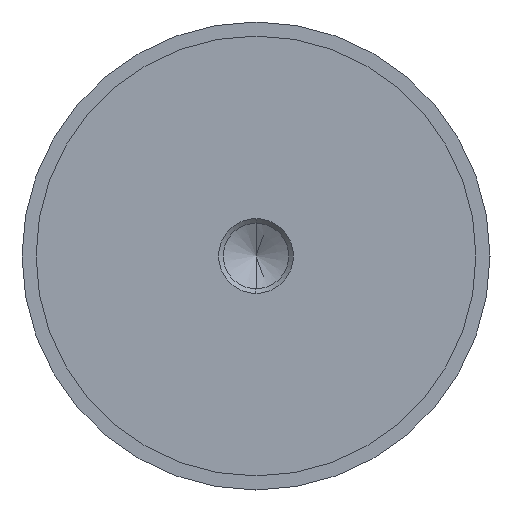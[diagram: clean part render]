
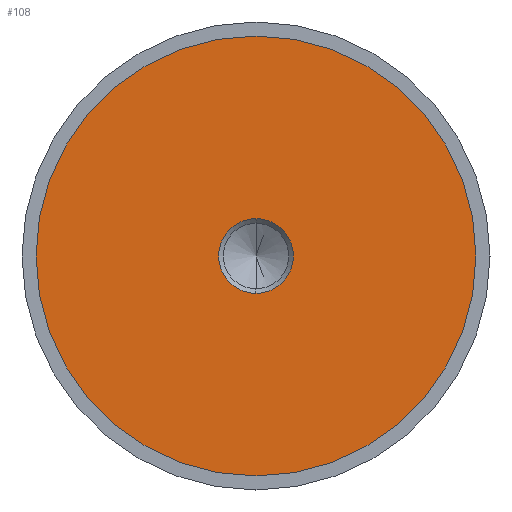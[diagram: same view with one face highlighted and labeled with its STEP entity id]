
A CAD part, left-side view. The second image highlights one B-rep face of the part: STEP entity #108.
In plain terms, the highlighted planar face has unit normal (-1, 0, 0).
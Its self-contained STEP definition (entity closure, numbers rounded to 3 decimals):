
#65 = CARTESIAN_POINT ( 'NONE',  ( -29.99, 0., 0. ) ) ;
#80 = CIRCLE ( 'NONE', #259, 7.99 ) ;
#108 = ADVANCED_FACE ( 'NONE', ( #772, #278 ), #469, .F. ) ;
#122 = ORIENTED_EDGE ( 'NONE', *, *, #333, .T. ) ;
#131 = ORIENTED_EDGE ( 'NONE', *, *, #521, .T. ) ;
#147 = CIRCLE ( 'NONE', #557, 7.99 ) ;
#157 = ORIENTED_EDGE ( 'NONE', *, *, #214, .T. ) ;
#166 = CARTESIAN_POINT ( 'NONE',  ( -29.99, 47., 0. ) ) ;
#191 = AXIS2_PLACEMENT_3D ( 'NONE', #361, #543, #783 ) ;
#192 = EDGE_CURVE ( 'NONE', #310, #304, #80, .T. ) ;
#205 = CARTESIAN_POINT ( 'NONE',  ( -29.99, 0., -7.99 ) ) ;
#214 = EDGE_CURVE ( 'NONE', #287, #590, #708, .T. ) ;
#229 = AXIS2_PLACEMENT_3D ( 'NONE', #277, #635, #638 ) ;
#249 = CARTESIAN_POINT ( 'NONE',  ( -29.99, 0., 0. ) ) ;
#259 = AXIS2_PLACEMENT_3D ( 'NONE', #249, #429, #725 ) ;
#277 = CARTESIAN_POINT ( 'NONE',  ( -29.99, 0., 0. ) ) ;
#278 = FACE_OUTER_BOUND ( 'NONE', #598, .T. ) ;
#287 = VERTEX_POINT ( 'NONE', #390 ) ;
#300 = EDGE_LOOP ( 'NONE', ( #619, #122 ) ) ;
#304 = VERTEX_POINT ( 'NONE', #205 ) ;
#310 = VERTEX_POINT ( 'NONE', #740 ) ;
#315 = DIRECTION ( 'NONE',  ( 1., 0., 0. ) ) ;
#333 = EDGE_CURVE ( 'NONE', #304, #310, #147, .T. ) ;
#361 = CARTESIAN_POINT ( 'NONE',  ( -29.99, 0., 0. ) ) ;
#390 = CARTESIAN_POINT ( 'NONE',  ( -29.99, 0., 47. ) ) ;
#395 = CIRCLE ( 'NONE', #229, 47. ) ;
#411 = DIRECTION ( 'NONE',  ( 0., 0., -1. ) ) ;
#429 = DIRECTION ( 'NONE',  ( 1., 0., 0. ) ) ;
#469 = PLANE ( 'NONE',  #782 ) ;
#521 = EDGE_CURVE ( 'NONE', #590, #287, #395, .T. ) ;
#543 = DIRECTION ( 'NONE',  ( -1., 0., 0. ) ) ;
#557 = AXIS2_PLACEMENT_3D ( 'NONE', #65, #315, #568 ) ;
#568 = DIRECTION ( 'NONE',  ( 0., 0., -1. ) ) ;
#590 = VERTEX_POINT ( 'NONE', #653 ) ;
#598 = EDGE_LOOP ( 'NONE', ( #157, #131 ) ) ;
#619 = ORIENTED_EDGE ( 'NONE', *, *, #192, .T. ) ;
#635 = DIRECTION ( 'NONE',  ( -1., 0., 0. ) ) ;
#638 = DIRECTION ( 'NONE',  ( 0., 0., 1. ) ) ;
#653 = CARTESIAN_POINT ( 'NONE',  ( -29.99, 0., -47. ) ) ;
#708 = CIRCLE ( 'NONE', #191, 47. ) ;
#715 = DIRECTION ( 'NONE',  ( 1., 0., 0. ) ) ;
#725 = DIRECTION ( 'NONE',  ( 0., 0., -1. ) ) ;
#740 = CARTESIAN_POINT ( 'NONE',  ( -29.99, 0., 7.99 ) ) ;
#772 = FACE_BOUND ( 'NONE', #300, .T. ) ;
#782 = AXIS2_PLACEMENT_3D ( 'NONE', #166, #715, #411 ) ;
#783 = DIRECTION ( 'NONE',  ( 0., 0., 1. ) ) ;
